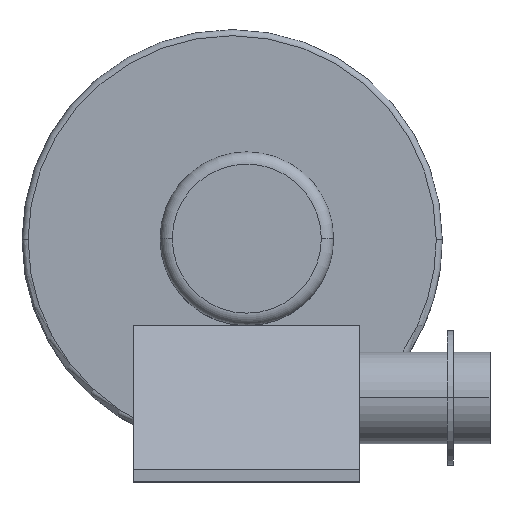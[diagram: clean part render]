
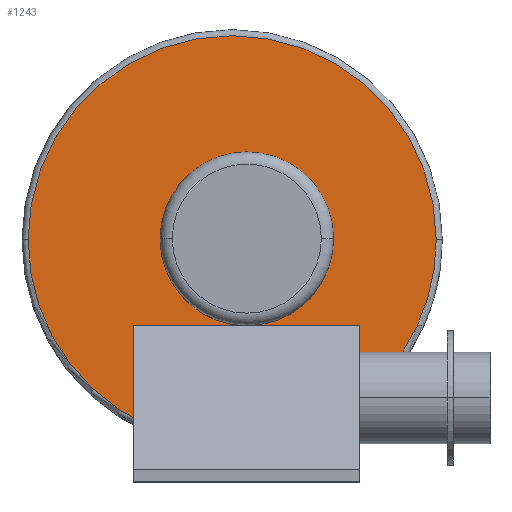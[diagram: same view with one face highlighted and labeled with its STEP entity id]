
A CAD part, top view. The second image highlights one B-rep face of the part: STEP entity #1243.
In plain terms, the highlighted planar face has unit normal (0, 0, 1).
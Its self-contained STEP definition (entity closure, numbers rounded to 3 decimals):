
#23 = DIRECTION ( 'NONE',  ( 0., 0., -1. ) ) ;
#41 = DIRECTION ( 'NONE',  ( 1., 0., 0. ) ) ;
#60 = DIRECTION ( 'NONE',  ( -1., 0., 0. ) ) ;
#66 = VERTEX_POINT ( 'NONE', #1572 ) ;
#79 = CARTESIAN_POINT ( 'NONE',  ( 164., -94., 0. ) ) ;
#111 = EDGE_LOOP ( 'NONE', ( #1047, #1686, #2116, #1607, #2156, #1628, #2091, #352, #201 ) ) ;
#141 = AXIS2_PLACEMENT_3D ( 'NONE', #902, #2097, #1073 ) ;
#154 = VERTEX_POINT ( 'NONE', #2119 ) ;
#158 = EDGE_CURVE ( 'NONE', #1875, #1292, #1166, .T. ) ;
#201 = ORIENTED_EDGE ( 'NONE', *, *, #1590, .T. ) ;
#231 = AXIS2_PLACEMENT_3D ( 'NONE', #1615, #617, #1786 ) ;
#246 = AXIS2_PLACEMENT_3D ( 'NONE', #844, #2036, #1005 ) ;
#265 = VECTOR ( 'NONE', #1426, 1000. ) ;
#268 = CARTESIAN_POINT ( 'NONE',  ( -12., -0.582, 0. ) ) ;
#295 = VERTEX_POINT ( 'NONE', #2063 ) ;
#324 = EDGE_CURVE ( 'NONE', #1244, #1641, #522, .T. ) ;
#325 = ORIENTED_EDGE ( 'NONE', *, *, #547, .T. ) ;
#352 = ORIENTED_EDGE ( 'NONE', *, *, #158, .T. ) ;
#359 = CARTESIAN_POINT ( 'NONE',  ( 0., -94., 0. ) ) ;
#438 = DIRECTION ( 'NONE',  ( -1., 0., 0. ) ) ;
#455 = VERTEX_POINT ( 'NONE', #359 ) ;
#496 = FACE_BOUND ( 'NONE', #1079, .T. ) ;
#522 = LINE ( 'NONE', #879, #910 ) ;
#525 = PLANE ( 'NONE',  #2162 ) ;
#545 = CARTESIAN_POINT ( 'NONE',  ( 0., -92.5, 0. ) ) ;
#546 = CIRCLE ( 'NONE', #231, 167.001 ) ;
#547 = EDGE_CURVE ( 'NONE', #747, #66, #1493, .T. ) ;
#590 = CARTESIAN_POINT ( 'NONE',  ( 0., -167.151, 0. ) ) ;
#605 = DIRECTION ( 'NONE',  ( 0., 0., -1. ) ) ;
#612 = CIRCLE ( 'NONE', #1755, 167.001 ) ;
#617 = DIRECTION ( 'NONE',  ( 0., 0., 1. ) ) ;
#708 = LINE ( 'NONE', #79, #265 ) ;
#730 = CARTESIAN_POINT ( 'NONE',  ( -12., -0.582, 0. ) ) ;
#747 = VERTEX_POINT ( 'NONE', #882 ) ;
#813 = VECTOR ( 'NONE', #41, 1000. ) ;
#833 = EDGE_CURVE ( 'NONE', #1314, #455, #1859, .T. ) ;
#844 = CARTESIAN_POINT ( 'NONE',  ( 0., 0., 0. ) ) ;
#845 = VERTEX_POINT ( 'NONE', #1781 ) ;
#853 = CARTESIAN_POINT ( 'NONE',  ( -12., -0.582, 0. ) ) ;
#879 = CARTESIAN_POINT ( 'NONE',  ( 0., -0.582, 0. ) ) ;
#882 = CARTESIAN_POINT ( 'NONE',  ( -71., 0., 0. ) ) ;
#886 = CIRCLE ( 'NONE', #1144, 71. ) ;
#892 = DIRECTION ( 'NONE',  ( -1., 0., 0. ) ) ;
#902 = CARTESIAN_POINT ( 'NONE',  ( -12., -0.582, 0. ) ) ;
#910 = VECTOR ( 'NONE', #1717, 1000. ) ;
#932 = VECTOR ( 'NONE', #60, 1000. ) ;
#1005 = DIRECTION ( 'NONE',  ( -1., 0., 0. ) ) ;
#1035 = CARTESIAN_POINT ( 'NONE',  ( -179.001, -0.582, 0. ) ) ;
#1047 = ORIENTED_EDGE ( 'NONE', *, *, #324, .F. ) ;
#1073 = DIRECTION ( 'NONE',  ( -1., 0., 0. ) ) ;
#1079 = EDGE_LOOP ( 'NONE', ( #325, #2071 ) ) ;
#1101 = EDGE_CURVE ( 'NONE', #845, #295, #546, .T. ) ;
#1144 = AXIS2_PLACEMENT_3D ( 'NONE', #1603, #605, #1773 ) ;
#1166 = CIRCLE ( 'NONE', #1566, 167.001 ) ;
#1191 = DIRECTION ( 'NONE',  ( -1., 0., 0. ) ) ;
#1207 = CARTESIAN_POINT ( 'NONE',  ( 164., -166., 0. ) ) ;
#1233 = CARTESIAN_POINT ( 'NONE',  ( 164., -92.5, 0. ) ) ;
#1243 = ADVANCED_FACE ( 'NONE', ( #496, #1721 ), #525, .F. ) ;
#1244 = VERTEX_POINT ( 'NONE', #2042 ) ;
#1261 = LINE ( 'NONE', #1207, #813 ) ;
#1292 = VERTEX_POINT ( 'NONE', #1035 ) ;
#1314 = VERTEX_POINT ( 'NONE', #545 ) ;
#1359 = CARTESIAN_POINT ( 'NONE',  ( 155.001, -0.582, 0. ) ) ;
#1416 = VECTOR ( 'NONE', #1613, 1000. ) ;
#1422 = EDGE_CURVE ( 'NONE', #1244, #845, #1261, .T. ) ;
#1426 = DIRECTION ( 'NONE',  ( -1., 0., 0. ) ) ;
#1439 = DIRECTION ( 'NONE',  ( 0., 0., 1. ) ) ;
#1445 = CARTESIAN_POINT ( 'NONE',  ( 0., -0.582, 0. ) ) ;
#1446 = LINE ( 'NONE', #1233, #932 ) ;
#1493 = CIRCLE ( 'NONE', #246, 71. ) ;
#1566 = AXIS2_PLACEMENT_3D ( 'NONE', #268, #1439, #438 ) ;
#1572 = CARTESIAN_POINT ( 'NONE',  ( 71., 0., 0. ) ) ;
#1590 = EDGE_CURVE ( 'NONE', #1292, #1641, #612, .T. ) ;
#1603 = CARTESIAN_POINT ( 'NONE',  ( 0., 0., 0. ) ) ;
#1607 = ORIENTED_EDGE ( 'NONE', *, *, #2011, .T. ) ;
#1610 = EDGE_CURVE ( 'NONE', #154, #1314, #1446, .T. ) ;
#1613 = DIRECTION ( 'NONE',  ( 0., -1., 0. ) ) ;
#1615 = CARTESIAN_POINT ( 'NONE',  ( -12., -0.582, 0. ) ) ;
#1628 = ORIENTED_EDGE ( 'NONE', *, *, #1610, .F. ) ;
#1631 = EDGE_CURVE ( 'NONE', #154, #1875, #1787, .T. ) ;
#1641 = VERTEX_POINT ( 'NONE', #590 ) ;
#1686 = ORIENTED_EDGE ( 'NONE', *, *, #1422, .T. ) ;
#1708 = EDGE_CURVE ( 'NONE', #66, #747, #886, .T. ) ;
#1717 = DIRECTION ( 'NONE',  ( 0., -1., 0. ) ) ;
#1721 = FACE_OUTER_BOUND ( 'NONE', #111, .T. ) ;
#1755 = AXIS2_PLACEMENT_3D ( 'NONE', #730, #1903, #892 ) ;
#1773 = DIRECTION ( 'NONE',  ( -1., 0., 0. ) ) ;
#1781 = CARTESIAN_POINT ( 'NONE',  ( 10.938, -166., 0. ) ) ;
#1786 = DIRECTION ( 'NONE',  ( -1., 0., 0. ) ) ;
#1787 = CIRCLE ( 'NONE', #141, 167.001 ) ;
#1859 = LINE ( 'NONE', #1445, #1416 ) ;
#1875 = VERTEX_POINT ( 'NONE', #1359 ) ;
#1903 = DIRECTION ( 'NONE',  ( 0., 0., 1. ) ) ;
#2011 = EDGE_CURVE ( 'NONE', #295, #455, #708, .T. ) ;
#2036 = DIRECTION ( 'NONE',  ( 0., 0., -1. ) ) ;
#2042 = CARTESIAN_POINT ( 'NONE',  ( 0., -166., 0. ) ) ;
#2063 = CARTESIAN_POINT ( 'NONE',  ( 126.428, -94., 0. ) ) ;
#2071 = ORIENTED_EDGE ( 'NONE', *, *, #1708, .T. ) ;
#2091 = ORIENTED_EDGE ( 'NONE', *, *, #1631, .T. ) ;
#2097 = DIRECTION ( 'NONE',  ( 0., 0., 1. ) ) ;
#2116 = ORIENTED_EDGE ( 'NONE', *, *, #1101, .T. ) ;
#2119 = CARTESIAN_POINT ( 'NONE',  ( 127.429, -92.5, 0. ) ) ;
#2156 = ORIENTED_EDGE ( 'NONE', *, *, #833, .F. ) ;
#2162 = AXIS2_PLACEMENT_3D ( 'NONE', #853, #23, #1191 ) ;
